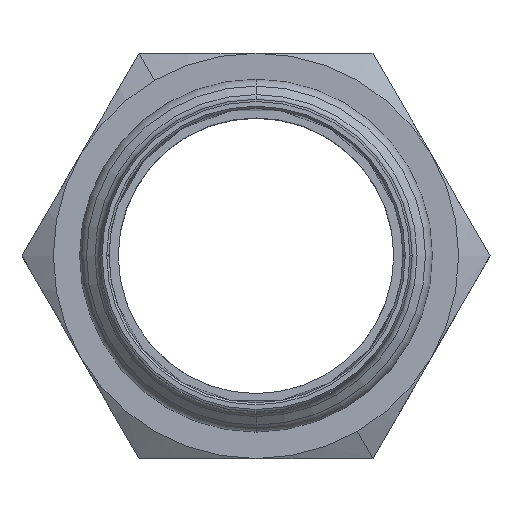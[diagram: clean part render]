
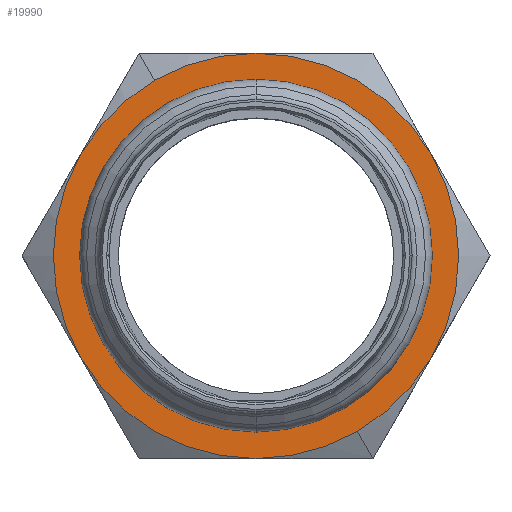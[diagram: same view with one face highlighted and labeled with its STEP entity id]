
A CAD part, top view. The second image highlights one B-rep face of the part: STEP entity #19990.
In plain terms, the highlighted planar face has unit normal (0, 0, 1) as drawn and (0, 0, -1) by its records, which use the part's own axes.
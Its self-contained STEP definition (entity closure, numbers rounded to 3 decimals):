
#19360=CARTESIAN_POINT('',(0.,0.,0.));
#19370=DIRECTION('',(0.,0.,1.));
#19380=DIRECTION('',(1.,0.,0.));
#19390=AXIS2_PLACEMENT_3D('',#19360,#19370,#19380);
#19400=PLANE('',#19390);
#19410=CARTESIAN_POINT('',(37.212,65.721,0.));
#19420=DIRECTION('',(0.,0.,1.));
#19430=DIRECTION('',(1.,0.,0.));
#19440=AXIS2_PLACEMENT_3D('',#19410,#19420,#19430);
#19450=CIRCLE('',#19440,32.4);
#19460=CARTESIAN_POINT('',(4.812,65.721,0.));
#19470=VERTEX_POINT('',#19460);
#19480=CARTESIAN_POINT('',(69.612,65.721,0.));
#19490=VERTEX_POINT('',#19480);
#19500=EDGE_CURVE('',#19470,#19490,#19450,.T.);
#19510=ORIENTED_EDGE('',*,*,#19500,.T.);
#19520=CARTESIAN_POINT('',(53.412,93.781,0.));
#19530=VERTEX_POINT('',#19520);
#19540=EDGE_CURVE('',#19530,#19470,#19450,.T.);
#19550=ORIENTED_EDGE('',*,*,#19540,.T.);
#19560=EDGE_CURVE('',#19490,#19530,#19450,.T.);
#19570=ORIENTED_EDGE('',*,*,#19560,.T.);
#19580=EDGE_LOOP('',(#19570,#19550,#19510));
#19590=FACE_BOUND('',#19580,.T.);
#19600=CARTESIAN_POINT('',(37.212,65.721,0.));
#19610=DIRECTION('',(0.,0.,1.));
#19620=DIRECTION('',(0.5,0.866,0.));
#19630=AXIS2_PLACEMENT_3D('',#19600,#19610,#19620);
#19640=CIRCLE('',#19630,37.5);
#19650=CARTESIAN_POINT('',(37.212,103.221,0.));
#19660=VERTEX_POINT('',#19650);
#19670=CARTESIAN_POINT('',(4.736,84.471,
0.));
#19680=VERTEX_POINT('',#19670);
#19690=EDGE_CURVE('',#19660,#19680,#19640,.T.);
#19700=ORIENTED_EDGE('',*,*,#19690,.F.);
#19710=CARTESIAN_POINT('',(4.736,46.971,
0.));
#19720=VERTEX_POINT('',#19710);
#19730=EDGE_CURVE('',#19680,#19720,#19640,.T.);
#19740=ORIENTED_EDGE('',*,*,#19730,.F.);
#19750=CARTESIAN_POINT('',(18.462,33.245,0.
));
#19760=VERTEX_POINT('',#19750);
#19770=EDGE_CURVE('',#19720,#19760,#19640,.T.);
#19780=ORIENTED_EDGE('',*,*,#19770,.F.);
#19790=CARTESIAN_POINT('',(37.212,28.221,0.));
#19800=VERTEX_POINT('',#19790);
#19810=EDGE_CURVE('',#19760,#19800,#19640,.T.);
#19820=ORIENTED_EDGE('',*,*,#19810,.F.);
#19830=CARTESIAN_POINT('',(69.688,46.971,
0.));
#19840=VERTEX_POINT('',#19830);
#19850=EDGE_CURVE('',#19800,#19840,#19640,.T.);
#19860=ORIENTED_EDGE('',*,*,#19850,.F.);
#19870=CARTESIAN_POINT('',(69.688,84.471,
0.));
#19880=VERTEX_POINT('',#19870);
#19890=EDGE_CURVE('',#19840,#19880,#19640,.T.);
#19900=ORIENTED_EDGE('',*,*,#19890,.F.);
#19910=CARTESIAN_POINT('',(55.962,98.197,
0.));
#19920=VERTEX_POINT('',#19910);
#19930=EDGE_CURVE('',#19880,#19920,#19640,.T.);
#19940=ORIENTED_EDGE('',*,*,#19930,.F.);
#19950=EDGE_CURVE('',#19920,#19660,#19640,.T.);
#19960=ORIENTED_EDGE('',*,*,#19950,.F.);
#19970=EDGE_LOOP('',(#19960,#19940,#19900,#19860,#19820,#19780,#19740,
#19700));
#19980=FACE_OUTER_BOUND('',#19970,.T.);
#19990=ADVANCED_FACE('',(#19590,#19980),#19400,.F.);
